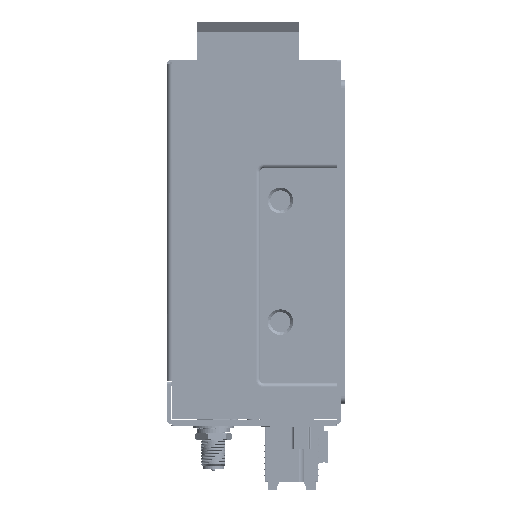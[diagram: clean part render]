
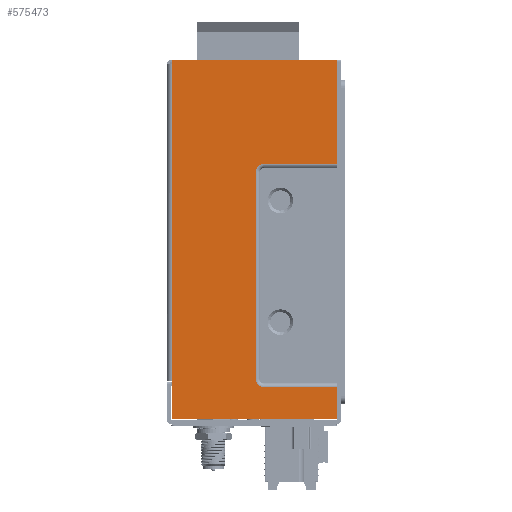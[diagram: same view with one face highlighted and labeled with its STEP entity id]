
A CAD part, left-side view. The second image highlights one B-rep face of the part: STEP entity #575473.
In plain terms, the highlighted planar face has unit normal (-1, 0, 0).
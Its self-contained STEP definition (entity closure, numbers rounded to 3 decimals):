
#4501 = VECTOR ( 'NONE', #438388, 1000. ) ;
#5132 = CIRCLE ( 'NONE', #63762, 0.5 ) ;
#7259 = CARTESIAN_POINT ( 'NONE',  ( 0., 0.75, -79.1 ) ) ;
#15619 = CARTESIAN_POINT ( 'NONE',  ( 0., 0.25, -77.923 ) ) ;
#17037 = VERTEX_POINT ( 'NONE', #648151 ) ;
#18651 = DIRECTION ( 'NONE',  ( 0., 1., 0. ) ) ;
#27241 = AXIS2_PLACEMENT_3D ( 'NONE', #333633, #285870, #454410 ) ;
#39559 = VERTEX_POINT ( 'NONE', #536598 ) ;
#40050 = VERTEX_POINT ( 'NONE', #655441 ) ;
#41772 = VERTEX_POINT ( 'NONE', #68920 ) ;
#43615 = DIRECTION ( 'NONE',  ( 0., -1., 0. ) ) ;
#49880 = DIRECTION ( 'NONE',  ( 0., 1., 0. ) ) ;
#60772 = ORIENTED_EDGE ( 'NONE', *, *, #695003, .T. ) ;
#60806 = EDGE_CURVE ( 'NONE', #305437, #182554, #295769, .T. ) ;
#61139 = ORIENTED_EDGE ( 'NONE', *, *, #422676, .T. ) ;
#63064 = ORIENTED_EDGE ( 'NONE', *, *, #257727, .T. ) ;
#63762 = AXIS2_PLACEMENT_3D ( 'NONE', #417568, #355479, #575240 ) ;
#65212 = DIRECTION ( 'NONE',  ( 1., 0., 0. ) ) ;
#68920 = CARTESIAN_POINT ( 'NONE',  ( 0., 40.5, 9.65 ) ) ;
#75473 = VECTOR ( 'NONE', #43615, 1000. ) ;
#86334 = ORIENTED_EDGE ( 'NONE', *, *, #205409, .T. ) ;
#92036 = EDGE_CURVE ( 'NONE', #633241, #412268, #555270, .T. ) ;
#94217 = CARTESIAN_POINT ( 'NONE',  ( 0., 23., 1.65 ) ) ;
#107463 = DIRECTION ( 'NONE',  ( 0., 1., 0. ) ) ;
#112462 = CARTESIAN_POINT ( 'NONE',  ( 0., 0.25, 9.15 ) ) ;
#124218 = DIRECTION ( 'NONE',  ( -1., 0., 0. ) ) ;
#131168 = CARTESIAN_POINT ( 'NONE',  ( 0., 23., -0.35 ) ) ;
#132714 = VECTOR ( 'NONE', #393867, 1000. ) ;
#139952 = EDGE_CURVE ( 'NONE', #426242, #437585, #166593, .T. ) ;
#142275 = AXIS2_PLACEMENT_3D ( 'NONE', #131168, #65212, #512328 ) ;
#152193 = LINE ( 'NONE', #492862, #309462 ) ;
#163385 = ORIENTED_EDGE ( 'NONE', *, *, #229842, .F. ) ;
#166593 = CIRCLE ( 'NONE', #353875, 0.5 ) ;
#166688 = AXIS2_PLACEMENT_3D ( 'NONE', #383311, #280623, #49880 ) ;
#169896 = CARTESIAN_POINT ( 'NONE',  ( 0., 41., 9.65 ) ) ;
#180678 = LINE ( 'NONE', #169896, #458796 ) ;
#182554 = VERTEX_POINT ( 'NONE', #15619 ) ;
#182775 = CARTESIAN_POINT ( 'NONE',  ( 0., 0.75, 9.15 ) ) ;
#188420 = CARTESIAN_POINT ( 'NONE',  ( 0., 0.25, -119.862 ) ) ;
#189151 = VERTEX_POINT ( 'NONE', #7259 ) ;
#199946 = VERTEX_POINT ( 'NONE', #691989 ) ;
#201402 = VECTOR ( 'NONE', #237157, 1000. ) ;
#205409 = EDGE_CURVE ( 'NONE', #39559, #182554, #529131, .T. ) ;
#207075 = ORIENTED_EDGE ( 'NONE', *, *, #473251, .T. ) ;
#219359 = EDGE_CURVE ( 'NONE', #612440, #40050, #386678, .T. ) ;
#229842 = EDGE_CURVE ( 'NONE', #41772, #437585, #180678, .T. ) ;
#237157 = DIRECTION ( 'NONE',  ( 0., 0., -1. ) ) ;
#244953 = ORIENTED_EDGE ( 'NONE', *, *, #625386, .F. ) ;
#256248 = VERTEX_POINT ( 'NONE', #359013 ) ;
#256368 = VECTOR ( 'NONE', #411875, 1000. ) ;
#257727 = EDGE_CURVE ( 'NONE', #256248, #612440, #563196, .T. ) ;
#261405 = CARTESIAN_POINT ( 'NONE',  ( 0., 0.25, 9.65 ) ) ;
#265004 = DIRECTION ( 'NONE',  ( 0., 0., -1. ) ) ;
#266465 = CARTESIAN_POINT ( 'NONE',  ( 0., 41., -53.35 ) ) ;
#269324 = DIRECTION ( 'NONE',  ( 0., 0., -1. ) ) ;
#276804 = VECTOR ( 'NONE', #265004, 1000. ) ;
#277044 = LINE ( 'NONE', #94217, #4501 ) ;
#280623 = DIRECTION ( 'NONE',  ( 1., 0., 0. ) ) ;
#283187 = LINE ( 'NONE', #674988, #695551 ) ;
#283295 = ORIENTED_EDGE ( 'NONE', *, *, #565634, .T. ) ;
#285870 = DIRECTION ( 'NONE',  ( -1., 0., 0. ) ) ;
#290423 = CIRCLE ( 'NONE', #477788, 0.5 ) ;
#295769 = LINE ( 'NONE', #687584, #201402 ) ;
#297187 = CARTESIAN_POINT ( 'NONE',  ( 0., 0., 0. ) ) ;
#305437 = VERTEX_POINT ( 'NONE', #407858 ) ;
#309462 = VECTOR ( 'NONE', #269324, 1000. ) ;
#323759 = DIRECTION ( 'NONE',  ( -1., 0., 0. ) ) ;
#333633 = CARTESIAN_POINT ( 'NONE',  ( 0., 40.5, 9.15 ) ) ;
#336088 = CARTESIAN_POINT ( 'NONE',  ( 0., 23., -53.35 ) ) ;
#338380 = DIRECTION ( 'NONE',  ( 0., -1., 0. ) ) ;
#338895 = EDGE_CURVE ( 'NONE', #436199, #17037, #152193, .T. ) ;
#353875 = AXIS2_PLACEMENT_3D ( 'NONE', #182775, #124218, #464915 ) ;
#355479 = DIRECTION ( 'NONE',  ( -1., 0., 0. ) ) ;
#359013 = CARTESIAN_POINT ( 'NONE',  ( 0., 23., 1.65 ) ) ;
#370340 = ORIENTED_EDGE ( 'NONE', *, *, #219359, .T. ) ;
#375241 = ORIENTED_EDGE ( 'NONE', *, *, #508192, .T. ) ;
#378519 = LINE ( 'NONE', #261405, #276804 ) ;
#383311 = CARTESIAN_POINT ( 'NONE',  ( 0., 23., -51.35 ) ) ;
#386678 = LINE ( 'NONE', #456151, #132714 ) ;
#388872 = CIRCLE ( 'NONE', #166688, 2. ) ;
#390867 = ORIENTED_EDGE ( 'NONE', *, *, #608618, .T. ) ;
#393867 = DIRECTION ( 'NONE',  ( 0., 0., -1. ) ) ;
#396692 = DIRECTION ( 'NONE',  ( 0., 0., -1. ) ) ;
#397193 = ORIENTED_EDGE ( 'NONE', *, *, #60806, .F. ) ;
#407858 = CARTESIAN_POINT ( 'NONE',  ( 0., 0.25, 0.15 ) ) ;
#411875 = DIRECTION ( 'NONE',  ( 0., 0., 1. ) ) ;
#412268 = VERTEX_POINT ( 'NONE', #266465 ) ;
#417568 = CARTESIAN_POINT ( 'NONE',  ( 0., 40.5, -78.6 ) ) ;
#422676 = EDGE_CURVE ( 'NONE', #189151, #39559, #290423, .T. ) ;
#426242 = VERTEX_POINT ( 'NONE', #112462 ) ;
#430436 = VERTEX_POINT ( 'NONE', #463954 ) ;
#436199 = VERTEX_POINT ( 'NONE', #656599 ) ;
#437585 = VERTEX_POINT ( 'NONE', #583694 ) ;
#438388 = DIRECTION ( 'NONE',  ( 0., -1., 0. ) ) ;
#445385 = CARTESIAN_POINT ( 'NONE',  ( 0., 0., -53.35 ) ) ;
#454410 = DIRECTION ( 'NONE',  ( 0., 1., 0. ) ) ;
#456151 = CARTESIAN_POINT ( 'NONE',  ( 0., 21., 0. ) ) ;
#456595 = ORIENTED_EDGE ( 'NONE', *, *, #139952, .T. ) ;
#458796 = VECTOR ( 'NONE', #338380, 1000. ) ;
#463954 = CARTESIAN_POINT ( 'NONE',  ( 0., 40.5, -79.1 ) ) ;
#464915 = DIRECTION ( 'NONE',  ( 0., 1., 0. ) ) ;
#473251 = EDGE_CURVE ( 'NONE', #199946, #430436, #5132, .T. ) ;
#477788 = AXIS2_PLACEMENT_3D ( 'NONE', #664205, #323759, #107463 ) ;
#482051 = AXIS2_PLACEMENT_3D ( 'NONE', #297187, #520731, #18651 ) ;
#491822 = PLANE ( 'NONE',  #482051 ) ;
#492862 = CARTESIAN_POINT ( 'NONE',  ( 0., 41., 0. ) ) ;
#501460 = CARTESIAN_POINT ( 'NONE',  ( 0., 0.25, -79.1 ) ) ;
#502599 = FACE_OUTER_BOUND ( 'NONE', #702375, .T. ) ;
#508192 = EDGE_CURVE ( 'NONE', #430436, #189151, #713952, .T. ) ;
#512328 = DIRECTION ( 'NONE',  ( 0., 1., 0. ) ) ;
#520731 = DIRECTION ( 'NONE',  ( 1., 0., 0. ) ) ;
#529131 = LINE ( 'NONE', #188420, #256368 ) ;
#536598 = CARTESIAN_POINT ( 'NONE',  ( 0., 0.25, -78.6 ) ) ;
#541306 = EDGE_CURVE ( 'NONE', #412268, #199946, #283187, .T. ) ;
#555270 = LINE ( 'NONE', #445385, #626171 ) ;
#563196 = CIRCLE ( 'NONE', #142275, 2. ) ;
#565634 = EDGE_CURVE ( 'NONE', #17037, #256248, #277044, .T. ) ;
#575240 = DIRECTION ( 'NONE',  ( 0., 1., 0. ) ) ;
#575473 = ADVANCED_FACE ( 'NONE', ( #502599 ), #491822, .F. ) ;
#583694 = CARTESIAN_POINT ( 'NONE',  ( 0., 0.75, 9.65 ) ) ;
#600286 = ORIENTED_EDGE ( 'NONE', *, *, #541306, .T. ) ;
#608618 = EDGE_CURVE ( 'NONE', #41772, #436199, #705471, .T. ) ;
#612440 = VERTEX_POINT ( 'NONE', #678089 ) ;
#623937 = ORIENTED_EDGE ( 'NONE', *, *, #92036, .T. ) ;
#625386 = EDGE_CURVE ( 'NONE', #426242, #305437, #378519, .T. ) ;
#626171 = VECTOR ( 'NONE', #716391, 1000. ) ;
#633241 = VERTEX_POINT ( 'NONE', #336088 ) ;
#648151 = CARTESIAN_POINT ( 'NONE',  ( 0., 41., 1.65 ) ) ;
#655441 = CARTESIAN_POINT ( 'NONE',  ( 0., 21., -51.35 ) ) ;
#656599 = CARTESIAN_POINT ( 'NONE',  ( 0., 41., 9.15 ) ) ;
#664205 = CARTESIAN_POINT ( 'NONE',  ( 0., 0.75, -78.6 ) ) ;
#674988 = CARTESIAN_POINT ( 'NONE',  ( 0., 41., 0. ) ) ;
#678089 = CARTESIAN_POINT ( 'NONE',  ( 0., 21., -0.35 ) ) ;
#687584 = CARTESIAN_POINT ( 'NONE',  ( 0., 0.25, -79.1 ) ) ;
#691989 = CARTESIAN_POINT ( 'NONE',  ( 0., 41., -78.6 ) ) ;
#695003 = EDGE_CURVE ( 'NONE', #40050, #633241, #388872, .T. ) ;
#695551 = VECTOR ( 'NONE', #396692, 1000. ) ;
#702375 = EDGE_LOOP ( 'NONE', ( #375241, #61139, #86334, #397193, #244953, #456595, #163385, #390867, #723320, #283295, #63064, #370340, #60772, #623937, #600286, #207075 ) ) ;
#705471 = CIRCLE ( 'NONE', #27241, 0.5 ) ;
#713952 = LINE ( 'NONE', #501460, #75473 ) ;
#716391 = DIRECTION ( 'NONE',  ( 0., 1., 0. ) ) ;
#723320 = ORIENTED_EDGE ( 'NONE', *, *, #338895, .T. ) ;
